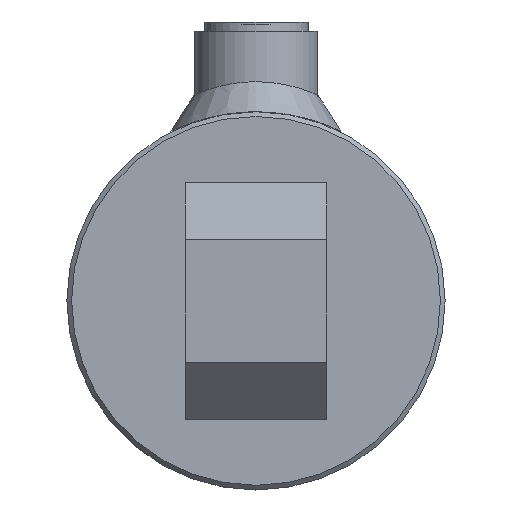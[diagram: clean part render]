
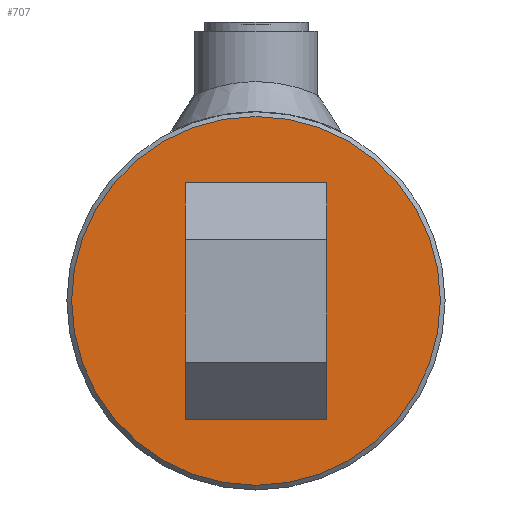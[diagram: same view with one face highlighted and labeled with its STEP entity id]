
A CAD part, left-side view. The second image highlights one B-rep face of the part: STEP entity #707.
In plain terms, the highlighted planar face has unit normal (-1, 0, 0).
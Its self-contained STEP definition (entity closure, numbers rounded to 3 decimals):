
#707 = ADVANCED_FACE( '', ( #1326 ), #1327, .T. );
#1326 = FACE_OUTER_BOUND( '', #2205, .T. );
#1327 = PLANE( '', #2206 );
#2205 = EDGE_LOOP( '', ( #5731 ) );
#2206 = AXIS2_PLACEMENT_3D( '', #5732, #5733, #5734 );
#5731 = ORIENTED_EDGE( '', *, *, #6974, .T. );
#5732 = CARTESIAN_POINT( '', ( -12., 0., 0. ) );
#5733 = DIRECTION( '', ( -1., 0., 0. ) );
#5734 = DIRECTION( '', ( 0., -1., 0. ) );
#6974 = EDGE_CURVE( '', #7613, #7613, #7614, .T. );
#7613 = VERTEX_POINT( '', #8306 );
#7614 = CIRCLE( '', #8307, 39. );
#8306 = CARTESIAN_POINT( '', ( -12., -39., 0. ) );
#8307 = AXIS2_PLACEMENT_3D( '', #10098, #10099, #10100 );
#10098 = CARTESIAN_POINT( '', ( -12., 0., 0. ) );
#10099 = DIRECTION( '', ( -1., 0., 0. ) );
#10100 = DIRECTION( '', ( 0., -1., 0. ) );
